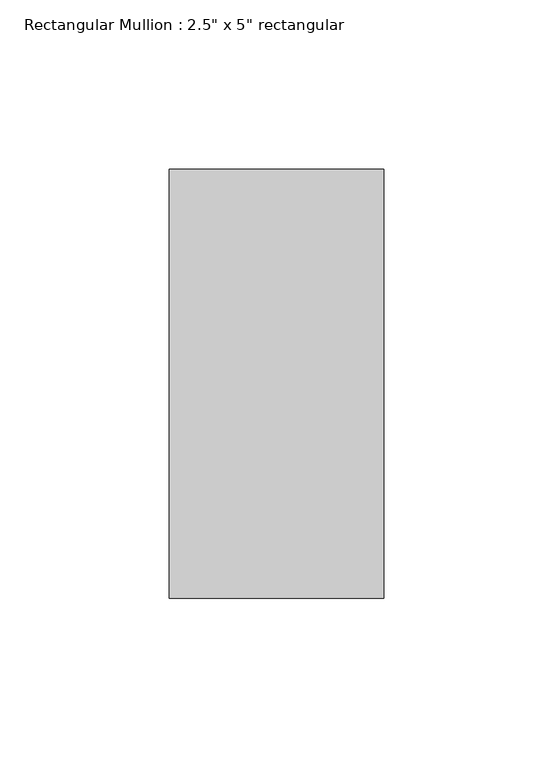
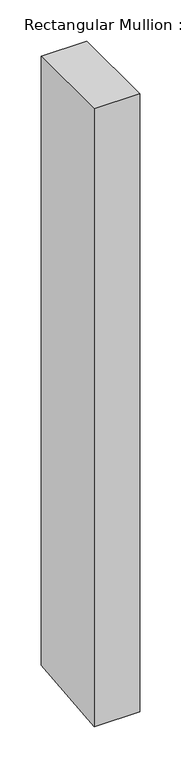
"""IFC4 building model written with IfcOpenShell, lengths in millimetres: member geometry."""

from ifc_helpers import new_model, si_unit, frame, origin, place, context, project, spatial, polyline, outline, extrude, source, transform, mapped, element, save


def member_7a4957c5(model_context):
    return source(origin(), model_context, "Body", "SweptSolid", [
        extrude(outline(polyline([(-63.5, 0.0), (63.5, 0.0), (63.5, -897.0775058), (-63.5, -910.5667171), (-63.5, 0.0)])), frame((-63.5, 0.0, 0.0), z_axis=(1.0, 0.0, 0.0), x_axis=(0.0, 1.0, 0.0)), (0.0, 0.0, 1.0), 63.5),
    ])


if __name__ == "__main__":
    model = new_model("IFC4")
    model_context = context("Model", 3, world=origin())
    ifc_project = project(units=[si_unit("LENGTHUNIT", "METRE", prefix="MILLI")], contexts=[model_context])
    site = spatial("IfcSite", under=ifc_project)
    building = spatial("IfcBuilding", under=site)
    placement = place(None, origin())
    member_shape = member_7a4957c5(model_context)
    element("IfcMember", 1, ObjectType="Rectangular Mullion : 2.5\" x 5\" rectangular", at=placement, inside=building, context=model_context, shape_type="MappedRepresentation", body=[
        mapped(member_shape, transform((0.0, 0.0, 0.0), x_axis=(1.0, 0.0, 0.0), y_axis=(0.0, 1.0, 0.0), z_axis=(0.0, 0.0, 1.0))),
    ])
    save(model, "model.ifc")
